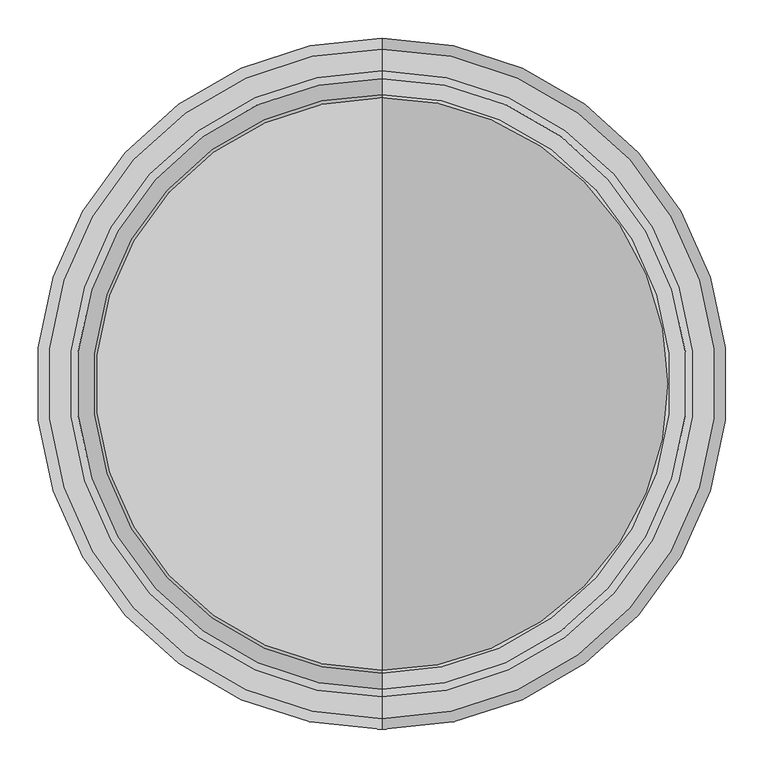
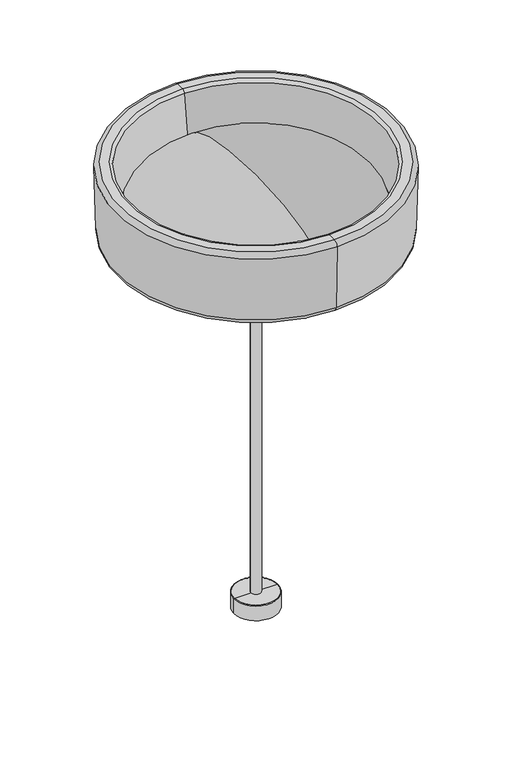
"""IFC4 building model written with IfcOpenShell, lengths in millimetres: light fixture geometry, MARSET_Interior-Lighting-Fixture_Face-Based_Ringo-90C-Fixed-Stem : A732-011-53-3CCT."""

from ifc_helpers import new_model, si_unit, point, frame, origin, origin_2d, place, context, project, spatial, polyline, circle_curve, ellipse_curve, trimmed, segment, composite_curve, outline, extrude, source, transform, mapped, element, save
from ifc_brep_helpers import plane_surface, cylinder_surface, revolved_surface, spline_curve, advanced_brep


def light_fixture_3f8612d6(model_context):
    return source(origin(), model_context, "Body", "SolidModel", [
        advanced_brep(
        [(0.0, -328.4749362, 1322.9946899), (0.0, 328.4749362, 1322.9946899), (0.0, 0.0, 1322.9946899), (0.0, 0.0, 1459.6340677)],
        [
            (0, 1, circle_curve(frame((0.0, 0.0, 1322.9946899), z_axis=(0.0, 0.0, -1.0), x_axis=(0.0, 1.0, 0.0)), 328.4749362)),
            (1, 2),
            (2, 0),
            (1, 0, circle_curve(frame((0.0, 0.0, 1322.9946899), z_axis=(0.0, 0.0, -1.0), x_axis=(0.0, 1.0, 0.0)), 328.4749362)),
            (3, 1, spline_curve(3, [(0.0, 0.0, 1459.6340677), (0.0, 174.963338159, 1455.787482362), (0.0, 274.765166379, 1435.000288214), (0.0, 365.091112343, 1383.674332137), (0.0, 379.840464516, 1358.127704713), (0.0, 364.853670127, 1330.09624651), (0.0, 353.401201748, 1322.446683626), (0.0, 328.4749362, 1322.9946899)], [4, 2, 2, 4], [0.0, 0.4752943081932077, 0.803846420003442, 0.9711113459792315])),
            (0, 3, spline_curve(3, [(0.0, -328.4749362, 1322.9946899), (0.0, -353.401201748, 1322.446683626), (0.0, -364.853670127, 1330.09624651), (0.0, -379.840464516, 1358.127704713), (0.0, -365.091112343, 1383.674332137), (0.0, -274.765166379, 1435.000288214), (0.0, -174.963338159, 1455.787482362), (0.0, 0.0, 1459.6340677)], [4, 2, 2, 4], [0.0, 0.16726492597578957, 0.4958170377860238, 0.9711113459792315])),
        ],
        [
            plane_surface(frame((0.0, 0.0, 1322.9946899), z_axis=(0.0, 0.0, -1.0), x_axis=(0.0, 1.0, 0.0))),
            revolved_surface(spline_curve(3, [(0.0, 328.4749362, 1322.9946899), (0.0, 353.401201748, 1322.446683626), (0.0, 364.853670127, 1330.09624651), (0.0, 379.840464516, 1358.127704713), (0.0, 365.091112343, 1383.674332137), (0.0, 274.765166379, 1435.000288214), (0.0, 174.963338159, 1455.787482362), (0.0, 0.0, 1459.6340677)], [4, 2, 2, 4], [0.0, 0.16726492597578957, 0.4958170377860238, 0.9711113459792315]), (0.0, 0.0, 1531.1323547), (0.0, 0.0, 1.0)),
        ],
        [
            (0, [[1, 2, 3]]),
            (0, [[4, -3, -2]]),
            (1, [[5, -1, 6]]),
            (1, [[-6, -4, -5]]),
        ],
    ),
        advanced_brep(
        [(0.0, -436.0061099, 1504.0595594), (0.0, 436.0061099, 1504.0595594), (0.0, 450.0558455, 1489.630911), (0.0, -450.0558455, 1489.630911), (0.0, -407.6861095, 1504.0595594), (0.0, 407.6861095, 1504.0595594), (0.0, -397.7834288, 1495.4512904), (0.0, 397.7834288, 1495.4512904), (0.0, -376.7949294, 1346.1103574), (0.0, 376.7949294, 1346.1103574), (0.0, -342.135547, 1315.9814159), (0.0, 342.135547, 1315.9814159), (0.0, 0.0, 1315.9814159), (0.0, -85.6686743, 1251.1323547), (0.0, 85.6686743, 1251.1323547), (0.0, 0.0, 1251.1323547), (0.0, -85.6686743, 1253.6601306), (0.0, 85.6686743, 1253.6601306), (0.0, -84.8806425, 1254.5992704), (0.0, 84.8806425, 1254.5992704), (0.0, -427.6832327, 1262.9603288), (0.0, 427.6832327, 1262.9603288), (0.0, -444.4687039, 1279.7085185), (0.0, 444.4687039, 1279.7085185)],
        [
            (0, 1, circle_curve(frame((0.0, 0.0, 1504.0595594), z_axis=(0.0, 0.0, -1.0), x_axis=(0.0, 1.0, 0.0)), 436.0061099)),
            (1, 2, circle_curve(frame((0.0, 436.0061099, 1490.0048485), z_axis=(-1.0, 0.0, 0.0), x_axis=(0.0, -1.0, 0.0)), 14.0547109)),
            (2, 3, circle_curve(frame((0.0, 0.0, 1489.630911), z_axis=(0.0, 0.0, 1.0), x_axis=(0.0, 1.0, 0.0)), 450.0558455)),
            (3, 0, circle_curve(frame((0.0, -436.0061099, 1490.0048485), z_axis=(-1.0, 0.0, 0.0), x_axis=(0.0, 1.0, 0.0)), 14.0547109)),
            (1, 0, circle_curve(frame((0.0, 0.0, 1504.0595594), z_axis=(0.0, 0.0, -1.0), x_axis=(0.0, 1.0, 0.0)), 436.0061099)),
            (3, 2, circle_curve(frame((0.0, 0.0, 1489.630911), z_axis=(0.0, 0.0, 1.0), x_axis=(0.0, 1.0, 0.0)), 450.0558455)),
            (4, 5, circle_curve(frame((0.0, 0.0, 1504.0595594), z_axis=(0.0, 0.0, -1.0), x_axis=(0.0, 1.0, 0.0)), 407.6861095)),
            (5, 1),
            (0, 4),
            (5, 4, circle_curve(frame((0.0, 0.0, 1504.0595594), z_axis=(0.0, 0.0, -1.0), x_axis=(0.0, 1.0, 0.0)), 407.6861095)),
            (6, 7, circle_curve(frame((0.0, 0.0, 1495.4512904), z_axis=(0.0, 0.0, -1.0), x_axis=(0.0, 1.0, 0.0)), 397.7834288)),
            (7, 5, circle_curve(frame((0.0, 407.6861095, 1494.0595594), z_axis=(-1.0, 0.0, 0.0), x_axis=(0.0, -1.0, 0.0)), 10.0)),
            (4, 6, circle_curve(frame((0.0, -407.6861095, 1494.0595594), z_axis=(-1.0, 0.0, 0.0), x_axis=(0.0, 1.0, 0.0)), 10.0)),
            (7, 6, circle_curve(frame((0.0, 0.0, 1495.4512904), z_axis=(0.0, 0.0, -1.0), x_axis=(0.0, 1.0, 0.0)), 397.7834288)),
            (8, 9, circle_curve(frame((0.0, 0.0, 1346.1103574), z_axis=(0.0, 0.0, -1.0), x_axis=(0.0, 1.0, 0.0)), 376.7949294)),
            (9, 7),
            (6, 8),
            (9, 8, circle_curve(frame((0.0, 0.0, 1346.1103574), z_axis=(0.0, 0.0, -1.0), x_axis=(0.0, 1.0, 0.0)), 376.7949294)),
            (10, 11, circle_curve(frame((0.0, 0.0, 1315.9814159), z_axis=(0.0, 0.0, -1.0), x_axis=(0.0, 1.0, 0.0)), 342.135547)),
            (11, 9, circle_curve(frame((0.0, 342.135547, 1350.9814159), z_axis=(1.0, 0.0, 0.0), x_axis=(0.0, -1.0, 0.0)), 35.0)),
            (8, 10, circle_curve(frame((0.0, -342.135547, 1350.9814159), z_axis=(1.0, 0.0, 0.0), x_axis=(0.0, 1.0, 0.0)), 35.0)),
            (11, 10, circle_curve(frame((0.0, 0.0, 1315.9814159), z_axis=(0.0, 0.0, -1.0), x_axis=(0.0, 1.0, 0.0)), 342.135547)),
            (12, 11),
            (10, 12),
            (13, 14, circle_curve(frame((0.0, 0.0, 1251.1323547), z_axis=(0.0, 0.0, -1.0), x_axis=(0.0, 1.0, 0.0)), 85.6686743)),
            (14, 15),
            (15, 13),
            (14, 13, circle_curve(frame((0.0, 0.0, 1251.1323547), z_axis=(0.0, 0.0, -1.0), x_axis=(0.0, 1.0, 0.0)), 85.6686743)),
            (16, 17, circle_curve(frame((0.0, 0.0, 1253.6601306), z_axis=(0.0, 0.0, -1.0), x_axis=(0.0, 1.0, 0.0)), 85.6686743)),
            (17, 14),
            (13, 16),
            (17, 16, circle_curve(frame((0.0, 0.0, 1253.6601306), z_axis=(0.0, 0.0, -1.0), x_axis=(0.0, 1.0, 0.0)), 85.6686743)),
            (18, 19, circle_curve(frame((0.0, 0.0, 1254.5992704), z_axis=(0.0, 0.0, -1.0), x_axis=(0.0, 1.0, 0.0)), 84.8806425)),
            (19, 17),
            (16, 18),
            (19, 18, circle_curve(frame((0.0, 0.0, 1254.5992704), z_axis=(0.0, 0.0, -1.0), x_axis=(0.0, 1.0, 0.0)), 84.8806425)),
            (20, 21, circle_curve(frame((0.0, 0.0, 1262.9603288), z_axis=(0.0, 0.0, -1.0), x_axis=(0.0, 1.0, 0.0)), 427.6832327)),
            (21, 19),
            (18, 20),
            (21, 20, circle_curve(frame((0.0, 0.0, 1262.9603288), z_axis=(0.0, 0.0, -1.0), x_axis=(0.0, 1.0, 0.0)), 427.6832327)),
            (22, 23, circle_curve(frame((0.0, 0.0, 1279.7085185), z_axis=(0.0, 0.0, -1.0), x_axis=(0.0, 1.0, 0.0)), 444.4687039)),
            (23, 21, circle_curve(frame((0.0, 427.2635705, 1280.1664378), z_axis=(-1.0, 0.0, 0.0), x_axis=(0.0, -1.0, 0.0)), 17.2112261)),
            (20, 22, circle_curve(frame((0.0, -427.2635705, 1280.1664378), z_axis=(-1.0, 0.0, 0.0), x_axis=(0.0, 1.0, 0.0)), 17.2112261)),
            (23, 22, circle_curve(frame((0.0, 0.0, 1279.7085185), z_axis=(0.0, 0.0, -1.0), x_axis=(0.0, 1.0, 0.0)), 444.4687039)),
            (2, 23),
            (22, 3),
        ],
        [
            revolved_surface(trimmed(ellipse_curve(frame((0.0, 436.0061099, 1490.0048485), z_axis=(1.0, 0.0, 0.0), x_axis=(0.0, -1.0, 0.0)), 14.0547109, 14.0547109), [point((0.0, 450.0558455, 1489.630911))], [point((0.0, 436.0061099, 1504.0595594))], True, "CARTESIAN"), (0.0, 0.0, 1178.799057), (0.0, 0.0, 1.0)),
            plane_surface(frame((0.0, 0.0, 1504.0595594), z_axis=(0.0, 0.0, 1.0), x_axis=(0.0, 1.0, 0.0))),
            revolved_surface(trimmed(ellipse_curve(frame((0.0, 407.6861095, 1494.0595594), z_axis=(1.0, 0.0, 0.0), x_axis=(0.0, -1.0, 0.0)), 10.0, 10.0), [point((0.0, 407.6861095, 1504.0595594))], [point((0.0, 397.7834288, 1495.4512904))], True, "CARTESIAN"), (0.0, 0.0, 1178.799057), (0.0, 0.0, 1.0)),
            revolved_surface(polyline([(0.0, 397.7834288, 1495.4512904), (0.0, 376.7949294, 1346.1103574)]), (0.0, 0.0, 1178.799057), (0.0, 0.0, 1.0)),
            revolved_surface(trimmed(ellipse_curve(frame((0.0, 342.135547, 1350.9814159), z_axis=(-1.0, 0.0, 0.0), x_axis=(0.0, -1.0, 0.0)), 35.0, 35.0), [point((0.0, 376.7949294, 1346.1103574))], [point((0.0, 342.135547, 1315.9814159))], True, "CARTESIAN"), (0.0, 0.0, 1178.799057), (0.0, 0.0, 1.0)),
            plane_surface(frame((0.0, 0.0, 1315.9814159), z_axis=(0.0, 0.0, 1.0), x_axis=(0.0, 1.0, 0.0))),
            plane_surface(frame((0.0, 0.0, 1251.1323547), z_axis=(0.0, 0.0, -1.0), x_axis=(0.0, 1.0, 0.0))),
            cylinder_surface(frame((0.0, 0.0, 1178.799057), z_axis=(0.0, 0.0, 1.0), x_axis=(0.0, 1.0, 0.0)), 85.6686743),
            revolved_surface(polyline([(0.0, 85.6686743, 1253.6601306), (0.0, 84.8806425, 1254.5992704)]), (0.0, 0.0, 1178.799057), (0.0, 0.0, 1.0)),
            revolved_surface(polyline([(0.0, 84.8806425, 1254.5992704), (0.0, 427.6832327, 1262.9603288)]), (0.0, 0.0, 1178.799057), (0.0, 0.0, 1.0)),
            revolved_surface(trimmed(ellipse_curve(frame((0.0, 427.2635705, 1280.1664378), z_axis=(1.0, 0.0, 0.0), x_axis=(0.0, -1.0, 0.0)), 17.2112261, 17.2112261), [point((0.0, 427.6832327, 1262.9603288))], [point((0.0, 444.4687039, 1279.7085185))], True, "CARTESIAN"), (0.0, 0.0, 1178.799057), (0.0, 0.0, 1.0)),
            revolved_surface(polyline([(0.0, 444.4687039, 1279.7085185), (0.0, 450.0558455, 1489.630911)]), (0.0, 0.0, 1178.799057), (0.0, 0.0, 1.0)),
        ],
        [
            (0, [[1, 2, 3, 4]]),
            (0, [[5, -4, 6, -2]]),
            (1, [[7, 8, -1, 9]]),
            (1, [[10, -9, -5, -8]]),
            (2, [[11, 12, -7, 13]]),
            (2, [[14, -13, -10, -12]]),
            (3, [[15, 16, -11, 17]]),
            (3, [[18, -17, -14, -16]]),
            (4, [[19, 20, -15, 21]]),
            (4, [[22, -21, -18, -20]]),
            (5, [[23, -19, 24]]),
            (5, [[-24, -22, -23]]),
            (6, [[25, 26, 27]]),
            (6, [[28, -27, -26]]),
            (7, [[29, 30, -25, 31]]),
            (7, [[32, -31, -28, -30]]),
            (8, [[33, 34, -29, 35]]),
            (8, [[36, -35, -32, -34]]),
            (9, [[37, 38, -33, 39]]),
            (9, [[40, -39, -36, -38]]),
            (10, [[41, 42, -37, 43]]),
            (10, [[44, -43, -40, -42]]),
            (11, [[-3, 45, -41, 46]]),
            (11, [[-6, -46, -44, -45]]),
        ],
    ),
        extrude(outline(composite_curve([segment(trimmed(circle_curve(origin_2d(), 16.0), [point((16.0, 0.0))], [point((-16.0, 0.0))], False, "CARTESIAN"), True, "CONTINUOUS"), segment(trimmed(circle_curve(origin_2d(), 16.0), [point((-16.0, 0.0))], [point((16.0, 0.0))], False, "CARTESIAN"), True, "CONTINUOUS")], self_intersect=False)), frame((0.0, 0.0, 51.1323547), z_axis=(0.0, 0.0, 1.0), x_axis=(1.0, 0.0, 0.0)), (0.0, 0.0, 1.0), 1189.971341),
        advanced_brep(
        [(21.3969326, 0.0, 1242.3269361), (-21.3943481, 0.0, 1242.3269361), (-21.3943481, 0.0, 1251.1323547), (21.3969326, 0.0, 1251.1323547), (0.0012922, 0.0, 1241.1036958), (-20.1711078, 0.0, 1241.1036958), (20.1736922, 0.0, 1241.1036958), (0.0012922, 0.0, 1251.1323547)],
        [
            (0, 1, circle_curve(frame((0.0012922, 0.0, 1242.3269361), z_axis=(0.0, 0.0, 1.0), x_axis=(-1.0, 0.0, 0.0)), 21.3956404)),
            (1, 2),
            (2, 3, circle_curve(frame((0.0012922, 0.0, 1251.1323547), z_axis=(0.0, 0.0, -1.0), x_axis=(-1.0, 0.0, 0.0)), 21.3956404)),
            (3, 0),
            (1, 0, circle_curve(frame((0.0012922, 0.0, 1242.3269361), z_axis=(0.0, 0.0, 1.0), x_axis=(-1.0, 0.0, 0.0)), 21.3956404)),
            (3, 2, circle_curve(frame((0.0012922, 0.0, 1251.1323547), z_axis=(0.0, 0.0, -1.0), x_axis=(-1.0, 0.0, 0.0)), 21.3956404)),
            (4, 5),
            (5, 6, circle_curve(frame((0.0012922, 0.0, 1241.1036958), z_axis=(0.0, 0.0, -1.0), x_axis=(-1.0, 0.0, 0.0)), 20.1724)),
            (6, 4),
            (6, 5, circle_curve(frame((0.0012922, 0.0, 1241.1036958), z_axis=(0.0, 0.0, -1.0), x_axis=(-1.0, 0.0, 0.0)), 20.1724)),
            (2, 7),
            (7, 3),
            (5, 1, circle_curve(frame((-20.1711078, 0.0, 1242.3269361), z_axis=(0.0, 1.0, 0.0), x_axis=(1.0, 0.0, 0.0)), 1.2232404)),
            (0, 6, circle_curve(frame((20.1736922, 0.0, 1242.3269361), z_axis=(0.0, 1.0, 0.0), x_axis=(-1.0, 0.0, 0.0)), 1.2232404)),
        ],
        [
            cylinder_surface(frame((0.0012922, 0.0, 1252.1322632), z_axis=(0.0, 0.0, -1.0), x_axis=(-1.0, 0.0, 0.0)), 21.3956404),
            plane_surface(frame((0.0012922, 0.0, 1241.1036958), z_axis=(0.0, 0.0, -1.0), x_axis=(-1.0, 0.0, 0.0))),
            plane_surface(frame((0.0012922, 0.0, 1251.1323547), z_axis=(0.0, 0.0, 1.0), x_axis=(-1.0, 0.0, 0.0))),
            revolved_surface(trimmed(ellipse_curve(frame((-20.1711078, 0.0, 1242.3269361), z_axis=(0.0, -1.0, 0.0), x_axis=(1.0, 0.0, 0.0)), 1.2232404, 1.2232404), [point((-21.3943481, 0.0, 1242.3269361))], [point((-20.1711078, 0.0, 1241.1036958))], True, "CARTESIAN"), (0.0012922, 0.0, 1252.1322632), (0.0, 0.0, -1.0)),
        ],
        [
            (0, [[1, 2, 3, 4]]),
            (0, [[5, -4, 6, -2]]),
            (1, [[7, 8, 9]]),
            (1, [[-9, 10, -7]]),
            (2, [[-3, 11, 12]]),
            (2, [[-6, -12, -11]]),
            (3, [[-8, 13, -1, 14]]),
            (3, [[-10, -14, -5, -13]]),
        ],
    ),
        advanced_brep(
        [(0.0, 0.0, 0.0), (-70.123291, 0.0, 0.0), (70.123291, 0.0, 0.0), (68.1495563, 0.0, 51.1323547), (-68.1495563, 0.0, 51.1323547), (0.0, 0.0, 51.1323547), (-70.123291, 0.0, 49.1586201), (70.123291, 0.0, 49.1586201)],
        [
            (0, 1),
            (1, 2, circle_curve(frame((0.0, 0.0, 0.0), z_axis=(0.0, 0.0, -1.0), x_axis=(-1.0, 0.0, 0.0)), 70.123291)),
            (2, 0),
            (2, 1, circle_curve(frame((0.0, 0.0, 0.0), z_axis=(0.0, 0.0, -1.0), x_axis=(-1.0, 0.0, 0.0)), 70.123291)),
            (3, 4, circle_curve(frame((0.0, 0.0, 51.1323547), z_axis=(0.0, 0.0, 1.0), x_axis=(-1.0, 0.0, 0.0)), 68.1495563)),
            (4, 5),
            (5, 3),
            (4, 3, circle_curve(frame((0.0, 0.0, 51.1323547), z_axis=(0.0, 0.0, 1.0), x_axis=(-1.0, 0.0, 0.0)), 68.1495563)),
            (1, 6),
            (6, 7, circle_curve(frame((0.0, 0.0, 49.1586201), z_axis=(0.0, 0.0, -1.0), x_axis=(-1.0, 0.0, 0.0)), 70.123291)),
            (7, 2),
            (7, 6, circle_curve(frame((0.0, 0.0, 49.1586201), z_axis=(0.0, 0.0, -1.0), x_axis=(-1.0, 0.0, 0.0)), 70.123291)),
            (6, 4, circle_curve(frame((-68.1495563, 0.0, 49.1586201), z_axis=(0.0, 1.0, 0.0), x_axis=(1.0, 0.0, 0.0)), 1.9737347)),
            (3, 7, circle_curve(frame((68.1495563, 0.0, 49.1586201), z_axis=(0.0, 1.0, 0.0), x_axis=(-1.0, 0.0, 0.0)), 1.9737347)),
        ],
        [
            plane_surface(frame((0.0, 0.0, 0.0), z_axis=(0.0, 0.0, -1.0), x_axis=(-1.0, 0.0, 0.0))),
            plane_surface(frame((0.0, 0.0, 51.1323547), z_axis=(0.0, 0.0, 1.0), x_axis=(-1.0, 0.0, 0.0))),
            cylinder_surface(frame((0.0, 0.0, -15.0), z_axis=(0.0, 0.0, -1.0), x_axis=(-1.0, 0.0, 0.0)), 70.123291),
            revolved_surface(trimmed(ellipse_curve(frame((-68.1495563, 0.0, 49.1586201), z_axis=(0.0, -1.0, 0.0), x_axis=(1.0, 0.0, 0.0)), 1.9737347, 1.9737347), [point((-68.1495563, 0.0, 51.1323547))], [point((-70.123291, 0.0, 49.1586201))], True, "CARTESIAN"), (0.0, 0.0, -15.0), (0.0, 0.0, -1.0)),
        ],
        [
            (0, [[1, 2, 3]]),
            (0, [[-3, 4, -1]]),
            (1, [[5, 6, 7]]),
            (1, [[8, -7, -6]]),
            (2, [[-2, 9, 10, 11]]),
            (2, [[-4, -11, 12, -9]]),
            (3, [[-10, 13, -5, 14]]),
            (3, [[-12, -14, -8, -13]]),
        ],
    ),
    ])


if __name__ == "__main__":
    model = new_model("IFC4")
    model_context = context("Model", 3, world=origin())
    ifc_project = project(units=[si_unit("LENGTHUNIT", "METRE", prefix="MILLI")], contexts=[model_context])
    site = spatial("IfcSite", under=ifc_project)
    building = spatial("IfcBuilding", under=site)
    placement = place(None, origin())
    light_fixture_shape = light_fixture_3f8612d6(model_context)
    element("IfcLightFixture", 1, ObjectType="MARSET_Interior-Lighting-Fixture_Face-Based_Ringo-90C-Fixed-Stem : A732-011-53-3CCT", at=placement, inside=building, context=model_context, shape_type="MappedRepresentation", body=[
        mapped(light_fixture_shape, transform((0.0, 0.0, 0.0), x_axis=(1.0, 0.0, 0.0), y_axis=(0.0, 1.0, 0.0), z_axis=(0.0, 0.0, 1.0))),
    ])
    save(model, "model.ifc")
